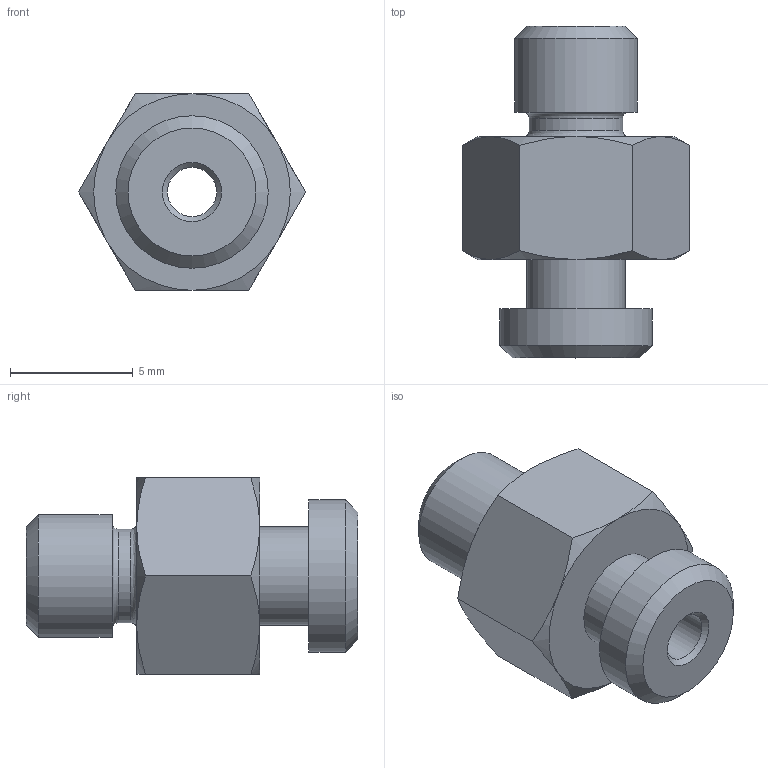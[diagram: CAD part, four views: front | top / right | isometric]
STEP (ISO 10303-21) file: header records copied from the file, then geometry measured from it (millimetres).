
FILE_DESCRIPTION((''),'2;1');
FILE_NAME('K:\Technik\CAD\Anschlußteile\270.010.stp','2006-11-21T16:36:55',('MHattenkofer'),(''),'Autodesk Inventor 11','Autodesk Inventor 11','');
FILE_SCHEMA(('AUTOMOTIVE_DESIGN { 1 0 10303 214 1 1 1 1 }'));
Length unit declared in the file: millimetre
Products named in the file (1): 270.010
Bounding box: 9.24 x 13.5 x 8 mm (x, y, z)
Volume: 395.1 mm3; surface area: 490.7 mm2
Topology: 1 solids, 1 shells, 35 faces, 69 edges, 40 vertices
Faces by surface type: cone 16, plane 12, cylinder 5, bspline 2
Full cylindrical faces by diameter (mm): 1.999 x1, 3.799 x1, 3.999 x1, 4.999 x1, 6.199 x1
Entity records: 933 total; most frequent: CARTESIAN_POINT 288, DIRECTION 130, ORIENTED_EDGE 116, AXIS2_PLACEMENT_3D 62, EDGE_CURVE 58, EDGE_LOOP 52, VERTEX_POINT 40, FACE_OUTER_BOUND 35
